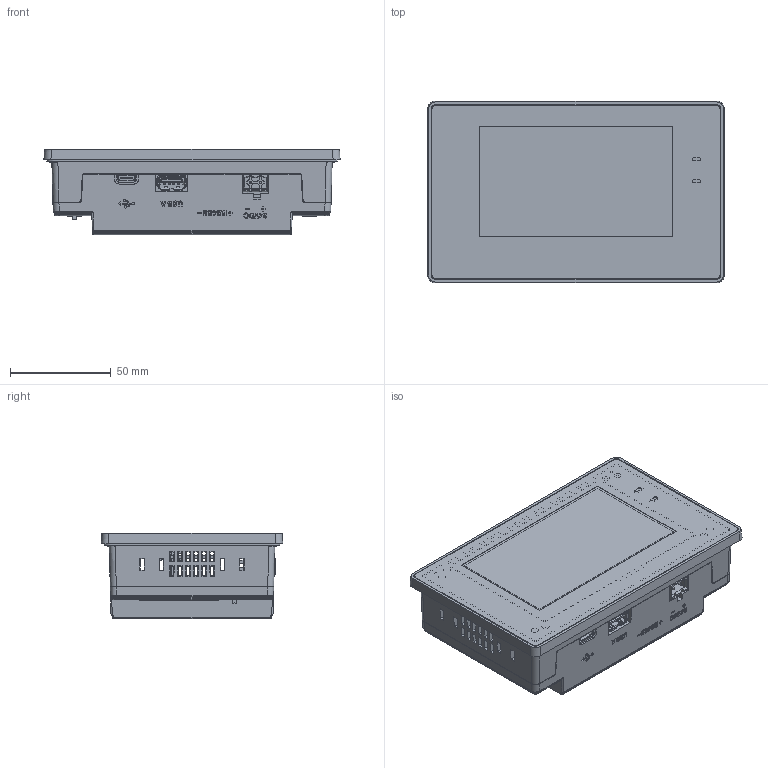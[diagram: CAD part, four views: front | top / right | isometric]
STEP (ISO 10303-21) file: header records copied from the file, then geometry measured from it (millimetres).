
FILE_DESCRIPTION((''),'2;1');
FILE_NAME('GE-043-ASM_ASM','2026-05-29T',('24166'),(''),'PRO/ENGINEER BY PARAMETRIC TECHNOLOGY CORPORATION, 2015240','PRO/ENGINEER BY PARAMETRIC TECHNOLOGY CORPORATION, 2015240','');
FILE_SCHEMA(('AUTOMOTIVE_DESIGN { 1 2 10303 214 0 1 1 1 }'));
Products named in the file (26): LCD-043-ZS; TP-043-18-KDT; LCD-TP-M2-ASM_ASM; LED-SMD; PCB-HMI-AIO-043-M2-C; 1109-041031-DIP-FEMALE57; 1109-010027-MALE-SMD22X40; PIN-FEMALE57-MALESMD22X40-ASM_ASM; TYPE-C-WOSHI; USB-A-W; TERM-2PIN-TL; PCBA-HMI-AIO-043-M2-ASM_ASM; PCB-PLC-AIO-043-M2-C; TERMINAL-1X10PH; SWITCH-1P2T-ACTIVE-0624; PCBA-PLC-AIO-043-M2-C-ASM_ASM; PCBA-AIO-043-M2-ASM_ASM; PC-PANEL-SA-043A-M2; RUBBER-AIO-043-M2; COVER-PLC-DECO-EXT-0829; PLC-56IO-ASM-0829_ASM; FRONT-CAB-GE-043; SCREW-2O6X12PA; SCREW-2O6X8PA; BACK-CAB-GE-043-A4; GE-043-ASM_ASM
Assembly tree (33 placements, depth 5):
  GE-043-ASM_ASM
    LCD-TP-M2-ASM_ASM
      LCD-043-ZS
      TP-043-18-KDT
    PCBA-AIO-043-M2-ASM_ASM
      PCBA-HMI-AIO-043-M2-ASM_ASM
        LED-SMD  x2
        PCB-HMI-AIO-043-M2-C
        PIN-FEMALE57-MALESMD22X40-ASM_ASM
          1109-041031-DIP-FEMALE57
          1109-010027-MALE-SMD22X40
        TYPE-C-WOSHI
        USB-A-W
        TERM-2PIN-TL
      PCBA-PLC-AIO-043-M2-C-ASM_ASM
        PCB-PLC-AIO-043-M2-C
        TERMINAL-1X10PH  x2
        SWITCH-1P2T-ACTIVE-0624
    PC-PANEL-SA-043A-M2
    RUBBER-AIO-043-M2
    PLC-56IO-ASM-0829_ASM
      COVER-PLC-DECO-EXT-0829
    FRONT-CAB-GE-043
    SCREW-2O6X12PA  x4
    SCREW-2O6X8PA  x4
    BACK-CAB-GE-043-A4
Bounding box: 147.2 x 90.2 x 42.65 mm (x, y, z)
Volume: 167270.5 mm3; surface area: 214567.9 mm2
Topology: 27 solids, 27 shells, 4935 faces, 12665 edges, 8189 vertices
Faces by surface type: plane 3539, cylinder 921, bspline 262, cone 80, extrusion 73, torus 44, sphere 16
Entity records: 158650 total; most frequent: CARTESIAN_POINT 35289, ORIENTED_EDGE 21084, DIRECTION 18567, EDGE_CURVE 10542, VECTOR 8485, LINE 8412, VERTEX_POINT 6837, PRESENTATION_STYLE_ASSIGNMENT 6334
